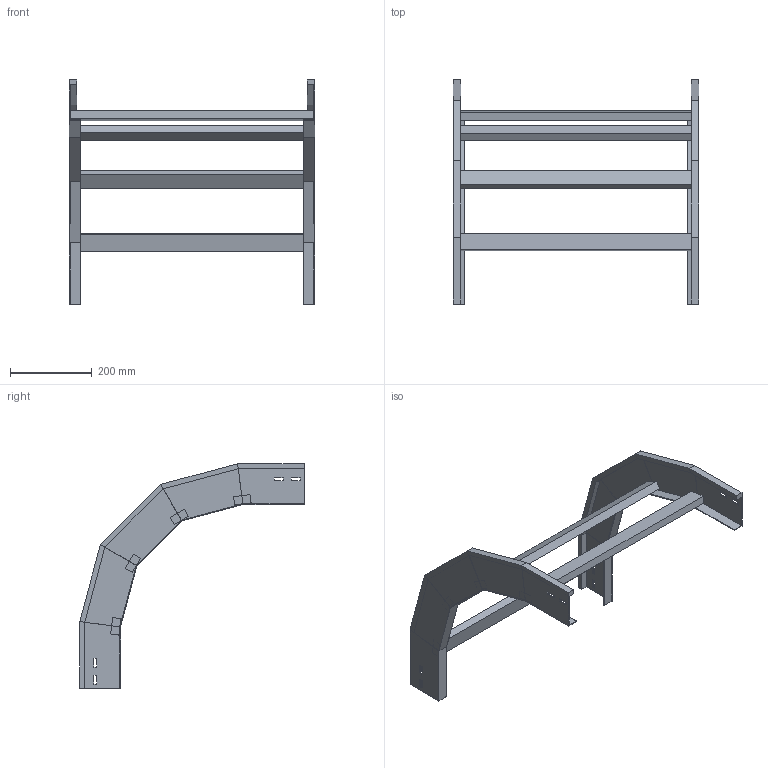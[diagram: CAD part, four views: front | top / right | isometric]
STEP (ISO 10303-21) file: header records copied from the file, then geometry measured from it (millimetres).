
FILE_DESCRIPTION (( 'STEP AP214' ), '1' );
FILE_NAME ('A2_33B3D600.step', '2025-02-21T15:02:02', ( '' ), ( '' ), 'SwSTEP 2.0', 'SolidWorks 2023', '' );
FILE_SCHEMA (( 'AUTOMOTIVE_DESIGN' ));
Length unit declared in the file: millimetre
Products named in the file (3): TRAVERSINO_600; LONGH.DISCESA_90°_H100_R300; A2_33B3D600
Assembly tree (6 placements, depth 2):
  A2_33B3D600
    LONGH.DISCESA_90°_H100_R300  x2
    TRAVERSINO_600  x4
Bounding box: 600 x 549.44 x 549.44 mm (x, y, z)
Volume: 2694660.1 mm3; surface area: 775139.4 mm2
Topology: 6 solids, 6 shells, 140 faces, 320 edges, 192 vertices
Faces by surface type: plane 140
Entity records: 1872 total; most frequent: CARTESIAN_POINT 309, ORIENTED_EDGE 296, DIRECTION 294, VECTOR 148, EDGE_CURVE 148, LINE 148, VERTEX_POINT 88, AXIS2_PLACEMENT_3D 73
